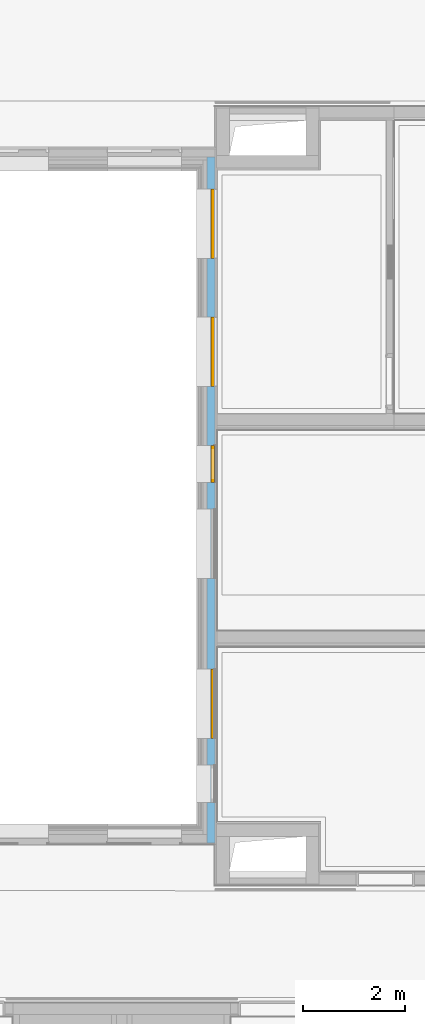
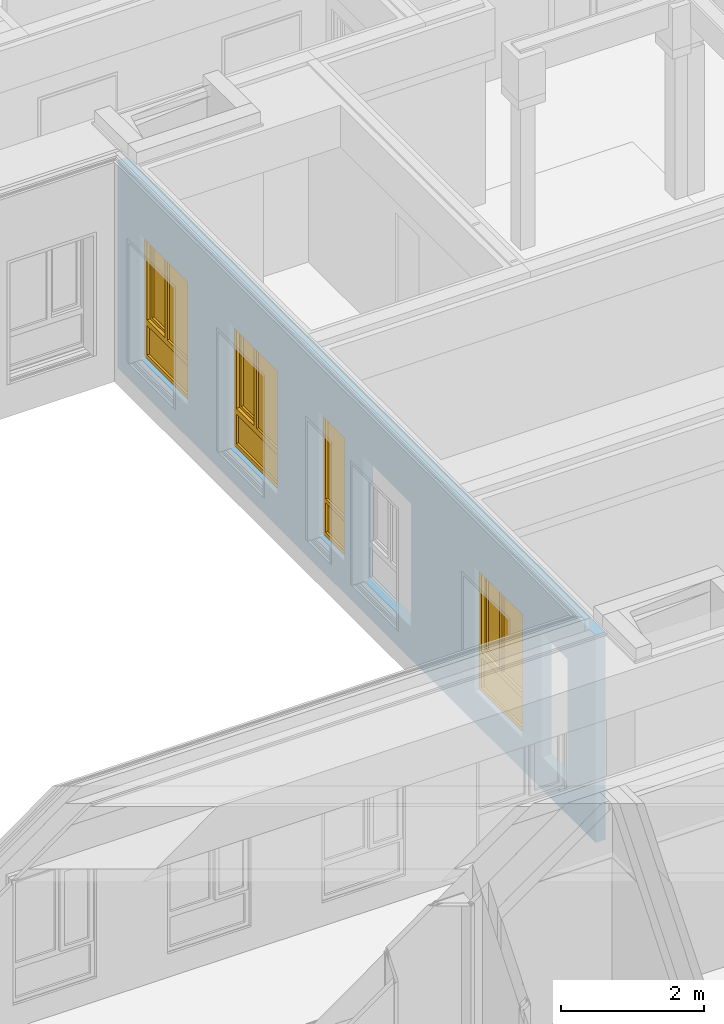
# One storey, part 74 of 222: 4 windows, 6 openings, plus 1 element that does not belong to this part.
"""IFC4 building model written with IfcOpenShell, lengths in metres."""

import ifcopenshell
import ifcopenshell.guid

model = None  # the IFC model being written
_history = None  # IfcOwnerHistory: only IFC2X3 demands one
_inside = {}  # id of a spatial element -> (the spatial element, [elements in it])
_under = {}  # id of a project, library or spatial element -> (it, [spatial elements below it])
_declared = {}  # id of a project -> (the project, [libraries it declares])
_typed = {}  # id of a type object -> (the type object, [elements of that type])
_made_of = {}  # id of a material, layer set ... -> (it, [elements and type objects made of it])


def new_model(schema):
    """Start an empty IFC model of exactly this schema.

    Asked for "IFC4X3", IfcOpenShell would pick the latest addendum, in which some entities
    have other attributes; the version numbers below select the first issue.
    IFC2X3 requires an IfcOwnerHistory on every rooted entity: one is made here for all.
    """
    global model, _history
    if schema == "IFC4X3":
        model = ifcopenshell.file(schema_version=(4, 3, 0, 0))
    else:
        model = ifcopenshell.file(schema=schema)
    _inside.clear()
    _under.clear()
    _declared.clear()
    _typed.clear()
    _made_of.clear()
    _history = None
    if model.schema == "IFC2X3":
        org = make("IfcOrganization", Name="unknown")
        user = make(
            "IfcPersonAndOrganization",
            ThePerson=make("IfcPerson", FamilyName="unknown"),
            TheOrganization=org,
        )
        app = make(
            "IfcApplication",
            ApplicationDeveloper=org,
            Version="unknown",
            ApplicationFullName="unknown",
            ApplicationIdentifier="unknown",
        )
        _history = make(
            "IfcOwnerHistory",
            OwningUser=user,
            OwningApplication=app,
            ChangeAction="ADDED",
            CreationDate=0,
        )
    return model


def make(cls, **values):
    """One entity of the class cls with the attributes given. An attribute that is None is left unset."""
    return model.create_entity(
        cls, **{name: value for name, value in values.items() if value is not None}
    )


def entity(cls, *values):
    """Any entity or typed value of the class cls, its attributes in the order of the schema. None: left unset."""
    e = model.create_entity(cls)
    for i, value in enumerate(values):
        if value is not None:
            e[i] = value
    return e


def rooted(cls, **values):
    """An entity with a GlobalId (a new one), such as an element, a storey or a relation."""
    return make(cls, GlobalId=ifcopenshell.guid.new(), OwnerHistory=_history, **values)


def si_unit(unit_type, name, prefix=None):
    """IfcSIUnit, for example si_unit("LENGTHUNIT", "METRE", prefix="MILLI")."""
    return make("IfcSIUnit", UnitType=unit_type, Prefix=prefix, Name=name)


def converted_unit(unit_type, name, factor, base, dimensions=None, offset=None):
    """IfcConversionBasedUnit, such as the inch: factor (a typed value) times the base unit."""
    return make(
        "IfcConversionBasedUnit"
        if offset is None
        else "IfcConversionBasedUnitWithOffset",
        ConversionOffset=offset,
        Dimensions=None
        if dimensions is None
        else entity("IfcDimensionalExponents", *dimensions),
        UnitType=unit_type,
        Name=name,
        ConversionFactor=make(
            "IfcMeasureWithUnit", ValueComponent=factor, UnitComponent=base
        ),
    )


def derived_unit(unit_type, elements):
    """IfcDerivedUnit: a product of units, each with its exponent."""
    return make(
        "IfcDerivedUnit",
        Elements=[
            make("IfcDerivedUnitElement", Unit=unit, Exponent=power)
            for unit, power in elements
        ],
        UnitType=unit_type,
    )


def assignment(units):
    """IfcUnitAssignment: the units of a project."""
    return None if units is None else make("IfcUnitAssignment", Units=units)


def point(xyz):
    """IfcCartesianPoint."""
    return None if xyz is None else make("IfcCartesianPoint", Coordinates=xyz)


def direction(xyz):
    """IfcDirection."""
    return None if xyz is None else make("IfcDirection", DirectionRatios=xyz)


def frame(location, z_axis=None, x_axis=None):
    """IfcAxis2Placement3D, a coordinate frame: its origin and axes. An axis left out is left unset."""
    return make(
        "IfcAxis2Placement3D",
        Location=point(location),
        Axis=direction(z_axis),
        RefDirection=direction(x_axis),
    )


def frame_2d(location, x_axis=None):
    """IfcAxis2Placement2D, a coordinate frame in the plane: its origin and x axis."""
    return make(
        "IfcAxis2Placement2D", Location=point(location), RefDirection=direction(x_axis)
    )


def origin():
    """The frame at (0, 0, 0) with its axes left unset."""
    return frame((0.0, 0.0, 0.0))


def origin_with_axes():
    """The frame at (0, 0, 0) with the z axis (0, 0, 1) and the x axis (1, 0, 0) written out."""
    return frame((0.0, 0.0, 0.0), z_axis=(0.0, 0.0, 1.0), x_axis=(1.0, 0.0, 0.0))


def place(relative_to, where):
    """IfcLocalPlacement: puts the frame where relative to a parent placement (None: the world)."""
    return make(
        "IfcLocalPlacement", PlacementRelTo=relative_to, RelativePlacement=where
    )


def context(
    kind, dimensions, precision=None, world=None, true_north=None, identifier=None
):
    """IfcGeometricRepresentationContext, for example the 3D "Model" context."""
    return make(
        "IfcGeometricRepresentationContext",
        ContextIdentifier=identifier,
        ContextType=kind,
        CoordinateSpaceDimension=dimensions,
        Precision=precision,
        WorldCoordinateSystem=world,
        TrueNorth=true_north,
    )


def subcontext(parent, identifier, kind, view, scale=None):
    """IfcGeometricRepresentationSubContext, for example "Body" below "Model"."""
    return make(
        "IfcGeometricRepresentationSubContext",
        ContextIdentifier=identifier,
        ContextType=kind,
        ParentContext=parent,
        TargetScale=scale,
        TargetView=view,
    )


def project(units=None, contexts=None):
    """IfcProject with its units and contexts."""
    return rooted(
        "IfcProject",
        Name="project",
        RepresentationContexts=contexts,
        UnitsInContext=assignment(units),
    )


def spatial(cls, under=None, at=None, **own):
    """A site, building, storey or space (cls), placed at a placement, below another one or the project."""
    s = rooted(cls, ObjectPlacement=at, **own)
    if under is not None:
        _under.setdefault(under.id(), (under, []))[1].append(s)
    return s


def polyline(points):
    """IfcPolyline through the points."""
    return make("IfcPolyline", Points=[point(p) for p in points])


def profile(cls, at=None, kind="AREA", **sizes):
    """A parametric profile (cls). Its sizes go by their IFC names, for example OverallWidth=200.0."""
    return make(cls, ProfileType=kind, Position=at, **sizes)


def rectangle(**sizes):
    """IfcRectangleProfileDef."""
    return profile("IfcRectangleProfileDef", **sizes)


def outline(outer, holes=None, kind="AREA"):
    """IfcArbitraryClosedProfileDef: a profile drawn as a closed curve; with holes, ...WithVoids."""
    if holes is None:
        return make("IfcArbitraryClosedProfileDef", ProfileType=kind, OuterCurve=outer)
    return make(
        "IfcArbitraryProfileDefWithVoids",
        ProfileType=kind,
        OuterCurve=outer,
        InnerCurves=holes,
    )


def extrude(swept, where, along, depth):
    """IfcExtrudedAreaSolid: the profile swept, set in the frame where, extruded along a direction by depth."""
    return make(
        "IfcExtrudedAreaSolid",
        SweptArea=swept,
        Position=where,
        ExtrudedDirection=direction(along),
        Depth=depth,
    )


def faces_of(points, faces, orient=None, outer=None):
    """IfcFace entities. A face is a list of loops; a loop is a list of indices into points, from 0.

    orient and outer hold one flag for each loop. By default every Orientation is true, the
    first loop of a face is its IfcFaceOuterBound and the others are IfcFaceBound.
    """
    made = []
    for i, loops in enumerate(faces):
        bounds = []
        for j, loop in enumerate(loops):
            is_outer = j == 0 if outer is None else outer[i][j]
            bounds.append(
                make(
                    "IfcFaceOuterBound" if is_outer else "IfcFaceBound",
                    Bound=make("IfcPolyLoop", Polygon=[points[k] for k in loop]),
                    Orientation=True if orient is None else orient[i][j],
                )
            )
        made.append(make("IfcFace", Bounds=bounds))
    return made


def closed_shell(faces, orient=None, outer=None):
    """The faces of one IfcClosedShell. faceted_brep and surface_model build it on their shared points."""
    return ("IfcClosedShell", faces, orient, outer)


def open_shell(faces, orient=None, outer=None):
    """The faces of one IfcOpenShell. surface_model builds it on its shared points."""
    return ("IfcOpenShell", faces, orient, outer)


def surface_model(cls, points, shells):
    """IfcFaceBasedSurfaceModel or IfcShellBasedSurfaceModel (cls): surfaces that need not close."""
    shared = [point(p) for p in points]
    made = [make(c, CfsFaces=faces_of(shared, fs, o, b)) for c, fs, o, b in shells]
    if cls == "IfcFaceBasedSurfaceModel":
        return make(cls, FbsmFaces=made)
    return make(cls, SbsmBoundary=made)


def shape(context_of_items, identifier, shape_type, items):
    """IfcShapeRepresentation: the items that make up one representation, for example the "Body"."""
    return make(
        "IfcShapeRepresentation",
        ContextOfItems=context_of_items,
        RepresentationIdentifier=identifier,
        RepresentationType=shape_type,
        Items=items,
    )


def source(mapping_origin, context_of_items, identifier, shape_type, items):
    """IfcRepresentationMap: a shape defined once, which mapped items show again and again."""
    return make(
        "IfcRepresentationMap",
        MappingOrigin=mapping_origin,
        MappedRepresentation=shape(context_of_items, identifier, shape_type, items),
    )


def transform(
    local_origin,
    x_axis=None,
    y_axis=None,
    z_axis=None,
    scale=None,
    scale2=None,
    scale3=None,
    uniform=True,
):
    """IfcCartesianTransformationOperator3D, or its non-uniform kind. x_axis, y_axis, z_axis: its Axis1, 2, 3."""
    if uniform:
        return make(
            "IfcCartesianTransformationOperator3D",
            Axis1=direction(x_axis),
            Axis2=direction(y_axis),
            LocalOrigin=point(local_origin),
            Scale=scale,
            Axis3=direction(z_axis),
        )
    return make(
        "IfcCartesianTransformationOperator3DnonUniform",
        Axis1=direction(x_axis),
        Axis2=direction(y_axis),
        LocalOrigin=point(local_origin),
        Scale=scale,
        Axis3=direction(z_axis),
        Scale2=scale2,
        Scale3=scale3,
    )


def mapped(mapping_source, mapping_target):
    """IfcMappedItem: shows the shape of a source again, moved by a transform."""
    return make(
        "IfcMappedItem", MappingSource=mapping_source, MappingTarget=mapping_target
    )


def material(Name=None, Category=None):
    """IfcMaterial."""
    return make("IfcMaterial", Name=Name, Category=Category)


def made_of(thing, what):
    """Note that an element or type object is made of a material, layer set ...; save() writes the relation."""
    if what is not None:
        _made_of.setdefault(what.id(), (what, []))[1].append(thing)
    return thing


def element(
    cls,
    number,
    at=None,
    inside=None,
    cuts=None,
    type_object=None,
    material=None,
    context=None,
    identifier="Body",
    shape_type=None,
    held_by="IfcProductDefinitionShape",
    body=None,
    shapes=None,
    **own,
):
    """One element of the class cls, such as IfcWall. Its Tag is "e" and its number.

    at: its placement. inside: the storey or other place that contains it. cuts: it is an
    opening in that element (IfcRelVoidsElement). A single representation is given by context,
    identifier, shape_type and body (its items); several are given by shapes. held_by: the class
    of the entity that holds the representations. save() writes the other relations.
    """
    e = rooted(cls, Tag="e%d" % number, ObjectPlacement=at, **own)
    if body is not None:
        shapes = [shape(context, identifier, shape_type, body)]
    if shapes is not None:
        e.Representation = make(held_by, Representations=shapes)
    if inside is not None:
        _inside.setdefault(inside.id(), (inside, []))[1].append(e)
    if cuts is not None:
        rooted(
            "IfcRelVoidsElement", RelatingBuildingElement=cuts, RelatedOpeningElement=e
        )
    if type_object is not None:
        _typed.setdefault(type_object.id(), (type_object, []))[1].append(e)
    return made_of(e, material)


def fill(opening, filler):
    """IfcRelFillsElement: the door or window that sits in an opening."""
    return rooted(
        "IfcRelFillsElement",
        RelatingOpeningElement=opening,
        RelatedBuildingElement=filler,
    )


def aggregate(whole, parts):
    """IfcRelAggregates: a whole, such as a stair, and the parts it consists of."""
    return rooted("IfcRelAggregates", RelatingObject=whole, RelatedObjects=parts)


def save(model, path):
    """Write the relations noted so far, then the file.

    IfcRelAggregates (storeys below a building ...), IfcRelContainedInSpatialStructure (elements
    in a storey), IfcRelDefinesByType, IfcRelAssociatesMaterial and IfcRelDeclares: one each for
    every whole, place, type object, material and project.
    """
    for whole, parts in _under.values():
        aggregate(whole, parts)
    for where, things in _inside.values():
        rooted(
            "IfcRelContainedInSpatialStructure",
            RelatedElements=things,
            RelatingStructure=where,
        )
    for kind, things in _typed.values():
        rooted("IfcRelDefinesByType", RelatedObjects=things, RelatingType=kind)
    for what, things in _made_of.values():
        rooted("IfcRelAssociatesMaterial", RelatedObjects=things, RelatingMaterial=what)
    for by, libraries in _declared.values():
        rooted("IfcRelDeclares", RelatingContext=by, RelatedDefinitions=libraries)
    model.write(path)


model = new_model("IFC4")

# Units and contexts
model_context = context("Model", 3, precision=1e-05, world=origin())
body_context = subcontext(model_context, "Body", "Model", "MODEL_VIEW")
ifc_project = project(units=[si_unit("LENGTHUNIT", "METRE"), si_unit("AREAUNIT", "SQUARE_METRE"), si_unit("VOLUMEUNIT", "CUBIC_METRE"), si_unit("MASSUNIT", "GRAM", prefix="KILO"), converted_unit("PLANEANGLEUNIT", "DEGREE", entity("IfcPlaneAngleMeasure", 0.0174532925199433), si_unit("PLANEANGLEUNIT", "RADIAN"), dimensions=[0, 0, 0, 0, 0, 0, 0]), derived_unit("THERMALTRANSMITTANCEUNIT", [(si_unit("POWERUNIT", "WATT"), 1), (si_unit("THERMODYNAMICTEMPERATUREUNIT", "KELVIN"), -1), (si_unit("LENGTHUNIT", "METRE"), -2)]), derived_unit("VOLUMETRICFLOWRATEUNIT", [(si_unit("LENGTHUNIT", "METRE"), 3), (converted_unit("TIMEUNIT", "hour", entity("IfcTimeMeasure", 3600.0), si_unit("TIMEUNIT", "SECOND"), dimensions=[0, 0, 1, 0, 0, 0, 0]), -1), (si_unit("LENGTHUNIT", "METRE"), -1)])], contexts=[model_context])

# Site, building, storey
site_placement = place(None, origin())
site = spatial("IfcSite", under=ifc_project, at=site_placement, Name="Psychiatrie Neubau Wunstorf", CompositionType="ELEMENT")
building_placement = place(site_placement, origin())
building = spatial("IfcBuilding", under=site, at=building_placement, Name="Neubau H2 Stationsgebäude", CompositionType="ELEMENT")
storey_placement = place(building_placement, frame((0.0, 0.0, 3.6)))
storey = spatial("IfcBuildingStorey", under=building, at=storey_placement, Name="H2 Ebene +1", CompositionType="ELEMENT", Elevation=3.6)

# Wall, openings, windows
ifc_material = material(Name="WA-DL")
wall_placement = place(storey_placement, frame((26.825, 7.45, 0.0), z_axis=(0.0, 0.0, 1.0), x_axis=(5.43320358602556e-16, 1.0, 0.0)))
wall = element("IfcWall", 1, at=wall_placement, inside=storey, material=ifc_material, context=body_context, shape_type="SweptSolid", body=[
    extrude(rectangle(XDim=13.3916528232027, YDim=0.16, at=frame_2d((6.69582641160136, 0.08), x_axis=(1.0, 0.0))), origin_with_axes(), (0.0, 0.0, 1.0), 3.55),
])
opening_1_placement = place(wall_placement, frame((12.765, 0.16, 0.55), z_axis=(0.0, -1.0, 0.0), x_axis=(0.0, 0.0, 1.0)))
opening_1 = element("IfcOpeningElement", 2, at=opening_1_placement, cuts=wall, Name="Fensteröffnung", ObjectType="Opening", context=body_context, shape_type="SweptSolid", body=[
    extrude(outline(polyline([(2.115, 1.35), (2.115, 0.0), (0.0, 0.0), (0.0, 1.35), (2.115, 1.35)])), origin_with_axes(), (0.0, 0.0, 1.0), 0.16),
])
opening_2_placement = place(wall_placement, frame((10.2654401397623, 0.159999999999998, 0.55), z_axis=(0.0, -1.0, 0.0), x_axis=(0.0, 0.0, 1.0)))
opening_2 = element("IfcOpeningElement", 3, at=opening_2_placement, cuts=wall, Name="Fensteröffnung", ObjectType="Opening", context=body_context, shape_type="SweptSolid", body=[
    extrude(outline(polyline([(2.115, 1.35), (2.115, 0.0), (0.0, 0.0), (0.0, 1.35), (2.115, 1.35)])), origin_with_axes(), (0.0, 0.0, 1.0), 0.16),
])
opening_3_placement = place(wall_placement, frame((7.76505754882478, 0.160000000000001, 0.55), z_axis=(0.0, -1.0, 0.0), x_axis=(0.0, 0.0, 1.0)))
opening_3 = element("IfcOpeningElement", 4, at=opening_3_placement, cuts=wall, Name="Fensteröffnung", ObjectType="Opening", context=body_context, shape_type="SweptSolid", body=[
    extrude(outline(polyline([(2.115, 0.725), (2.115, 0.0), (0.0, 0.0), (0.0, 0.725), (2.115, 0.725)])), origin_with_axes(), (0.0, 0.0, 1.0), 0.16),
])
opening_4_placement = place(wall_placement, frame((3.39244477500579, 0.160000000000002, 0.55), z_axis=(0.0, -1.0, 0.0), x_axis=(0.0, 0.0, 1.0)))
opening_4 = element("IfcOpeningElement", 5, at=opening_4_placement, cuts=wall, Name="Fensteröffnung", ObjectType="Opening", context=body_context, shape_type="SweptSolid", body=[
    extrude(outline(polyline([(2.115, 1.35), (2.115, 0.0), (0.0, 0.0), (0.0, 1.35), (2.115, 1.35)])), origin_with_axes(), (0.0, 0.0, 1.0), 0.16),
])
opening_5_placement = place(wall_placement, frame((1.51744478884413, 0.159999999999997, 0.55), z_axis=(0.0, -1.0, 0.0), x_axis=(0.0, 0.0, 1.0)))
element("IfcOpeningElement", 6, at=opening_5_placement, cuts=wall, Name="Fensteröffnung", ObjectType="Opening", context=body_context, shape_type="SweptSolid", body=[
    extrude(outline(polyline([(2.115, 0.725), (2.115, 0.0), (0.0, 0.0), (0.0, 0.725), (2.115, 0.725)])), origin_with_axes(), (0.0, 0.0, 1.0), 0.16),
])
opening_6_placement = place(wall_placement, frame((6.51580066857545, 0.160000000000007, 0.55), z_axis=(0.0, -1.0, 0.0), x_axis=(0.0, 0.0, 1.0)))
element("IfcOpeningElement", 7, at=opening_6_placement, cuts=wall, Name="Fensteröffnung", ObjectType="Opening", context=body_context, shape_type="SweptSolid", body=[
    extrude(outline(polyline([(2.115, 1.35), (2.115, 0.0), (0.0, 0.0), (0.0, 1.35), (2.115, 1.35)])), origin_with_axes(), (0.0, 0.0, 1.0), 0.16),
])
shared_shape_1 = source(origin_with_axes(), body_context, "Body", "SurfaceModel", [
    surface_model("IfcShellBasedSurfaceModel", [(1.34999999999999, 0.0, 2.115), (1.34999999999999, 0.0, 0.0), (1.27999999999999, 0.0, 0.0), (1.27999999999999, 0.0, 2.115), (1.34999999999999, 0.0700000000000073, 0.0), (1.34999999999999, 0.0700000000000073, 2.115), (1.27999999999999, 0.0700000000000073, 2.115), (1.27999999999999, 0.0700000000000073, 0.0)], [closed_shell([[[0, 1, 2, 3]], [[4, 5, 6, 7]], [[1, 0, 5, 4]], [[2, 1, 4, 7]], [[3, 2, 7, 6]], [[0, 3, 6, 5]]], orient=[[False], [False], [False], [False], [False], [False]])]),
    surface_model("IfcShellBasedSurfaceModel", [(0.0699999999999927, 0.0, 2.115), (0.0699999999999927, 0.0, 0.0), (0.0, 0.0, 0.0), (0.0, 0.0, 2.115), (0.0699999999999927, 0.0700000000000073, 0.0), (0.0699999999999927, 0.0700000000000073, 2.115), (0.0, 0.0700000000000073, 2.115), (0.0, 0.0700000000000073, 0.0)], [closed_shell([[[0, 1, 2, 3]], [[4, 5, 6, 7]], [[1, 0, 5, 4]], [[2, 1, 4, 7]], [[3, 2, 7, 6]], [[0, 3, 6, 5]]], orient=[[False], [False], [False], [False], [False], [False]])]),
    surface_model("IfcShellBasedSurfaceModel", [(1.27999999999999, 0.0, 0.07), (1.27999999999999, 0.0, 0.0), (0.0699999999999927, 0.0, 0.0), (0.0699999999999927, 0.0, 0.07), (1.27999999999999, 0.0700000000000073, 0.0), (1.27999999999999, 0.0700000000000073, 0.07), (0.0699999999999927, 0.0700000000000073, 0.07), (0.0699999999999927, 0.0700000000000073, 0.0)], [closed_shell([[[0, 1, 2, 3]], [[4, 5, 6, 7]], [[1, 0, 5, 4]], [[2, 1, 4, 7]], [[3, 2, 7, 6]], [[0, 3, 6, 5]]], orient=[[False], [False], [False], [False], [False], [False]])]),
    surface_model("IfcShellBasedSurfaceModel", [(1.27999999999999, 0.0, 2.115), (1.27999999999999, 0.0, 2.045), (0.0699999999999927, 0.0, 2.045), (0.0699999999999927, 0.0, 2.115), (1.27999999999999, 0.0700000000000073, 2.045), (1.27999999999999, 0.0700000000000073, 2.115), (0.0699999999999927, 0.0700000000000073, 2.115), (0.0699999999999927, 0.0700000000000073, 2.045)], [closed_shell([[[0, 1, 2, 3]], [[4, 5, 6, 7]], [[1, 0, 5, 4]], [[2, 1, 4, 7]], [[3, 2, 7, 6]], [[0, 3, 6, 5]]], orient=[[False], [False], [False], [False], [False], [False]])]),
    surface_model("IfcShellBasedSurfaceModel", [(1.27999999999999, 0.0, 0.67), (1.27999999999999, 0.0, 0.57), (0.0699999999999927, 0.0, 0.57), (0.0699999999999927, 0.0, 0.67), (1.27999999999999, 0.0700000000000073, 0.57), (1.27999999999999, 0.0700000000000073, 0.67), (0.0699999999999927, 0.0700000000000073, 0.67), (0.0699999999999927, 0.0700000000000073, 0.57)], [closed_shell([[[0, 1, 2, 3]], [[4, 5, 6, 7]], [[1, 0, 5, 4]], [[2, 1, 4, 7]], [[3, 2, 7, 6]], [[0, 3, 6, 5]]], orient=[[False], [False], [False], [False], [False], [False]])]),
    surface_model("IfcShellBasedSurfaceModel", [(1.27999999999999, 0.0350000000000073, 0.07), (0.0699999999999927, 0.0350000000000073, 0.07), (0.0699999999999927, 0.0350000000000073, 0.57), (1.27999999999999, 0.0350000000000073, 0.57)], [open_shell([[[0, 1, 2, 3]]], orient=[[False]])]),
    surface_model("IfcShellBasedSurfaceModel", [(0.784299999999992, 0.0, 2.045), (0.784299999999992, 0.0, 0.67), (0.714299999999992, 0.0, 0.67), (0.714299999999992, 0.0, 2.045), (0.784299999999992, 0.0700000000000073, 0.67), (0.784299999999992, 0.0700000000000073, 2.045), (0.714299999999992, 0.0700000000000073, 2.045), (0.714299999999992, 0.0700000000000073, 0.67)], [closed_shell([[[0, 1, 2, 3]], [[4, 5, 6, 7]], [[1, 0, 5, 4]], [[2, 1, 4, 7]], [[3, 2, 7, 6]], [[0, 3, 6, 5]]], orient=[[False], [False], [False], [False], [False], [False]])]),
    surface_model("IfcShellBasedSurfaceModel", [(1.29999999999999, -0.0499999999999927, 2.065), (1.29999999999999, -0.0499999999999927, 0.65), (1.22999999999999, -0.0499999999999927, 0.65), (1.22999999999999, -0.0499999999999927, 2.065), (1.29999999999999, 0.0200000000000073, 0.65), (1.29999999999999, 0.0200000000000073, 2.065), (1.22999999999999, 0.0200000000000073, 2.065), (1.22999999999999, 0.0200000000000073, 0.65)], [closed_shell([[[0, 1, 2, 3]], [[4, 5, 6, 7]], [[1, 0, 5, 4]], [[2, 1, 4, 7]], [[3, 2, 7, 6]], [[0, 3, 6, 5]]], orient=[[False], [False], [False], [False], [False], [False]])]),
    surface_model("IfcShellBasedSurfaceModel", [(0.834299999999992, -0.0499999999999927, 2.065), (0.834299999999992, -0.0499999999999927, 0.65), (0.764299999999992, -0.0499999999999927, 0.65), (0.764299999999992, -0.0499999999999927, 2.065), (0.834299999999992, 0.0200000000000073, 0.65), (0.834299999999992, 0.0200000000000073, 2.065), (0.764299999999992, 0.0200000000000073, 2.065), (0.764299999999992, 0.0200000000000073, 0.65)], [closed_shell([[[0, 1, 2, 3]], [[4, 5, 6, 7]], [[1, 0, 5, 4]], [[2, 1, 4, 7]], [[3, 2, 7, 6]], [[0, 3, 6, 5]]], orient=[[False], [False], [False], [False], [False], [False]])]),
    surface_model("IfcShellBasedSurfaceModel", [(1.22999999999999, -0.0499999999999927, 0.72), (1.22999999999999, -0.0499999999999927, 0.65), (0.834299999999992, -0.0499999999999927, 0.65), (0.834299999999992, -0.0499999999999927, 0.72), (1.22999999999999, 0.0200000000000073, 0.65), (1.22999999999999, 0.0200000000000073, 0.72), (0.834299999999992, 0.0200000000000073, 0.72), (0.834299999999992, 0.0200000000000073, 0.65)], [closed_shell([[[0, 1, 2, 3]], [[4, 5, 6, 7]], [[1, 0, 5, 4]], [[2, 1, 4, 7]], [[3, 2, 7, 6]], [[0, 3, 6, 5]]], orient=[[False], [False], [False], [False], [False], [False]])]),
    surface_model("IfcShellBasedSurfaceModel", [(1.22999999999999, -0.0499999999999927, 2.065), (1.22999999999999, -0.0499999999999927, 1.995), (0.834299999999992, -0.0499999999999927, 1.995), (0.834299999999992, -0.0499999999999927, 2.065), (1.22999999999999, 0.0200000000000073, 1.995), (1.22999999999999, 0.0200000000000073, 2.065), (0.834299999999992, 0.0200000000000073, 2.065), (0.834299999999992, 0.0200000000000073, 1.995)], [closed_shell([[[0, 1, 2, 3]], [[4, 5, 6, 7]], [[1, 0, 5, 4]], [[2, 1, 4, 7]], [[3, 2, 7, 6]], [[0, 3, 6, 5]]], orient=[[False], [False], [False], [False], [False], [False]])]),
    surface_model("IfcShellBasedSurfaceModel", [(0.714299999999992, 0.0350000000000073, 0.67), (0.0699999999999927, 0.0350000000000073, 0.67), (0.0699999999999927, 0.0350000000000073, 2.045), (0.714299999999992, 0.0350000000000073, 2.045)], [open_shell([[[0, 1, 2, 3]]], orient=[[False]])]),
    surface_model("IfcShellBasedSurfaceModel", [(1.22999999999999, -0.0149999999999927, 0.72), (0.834299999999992, -0.0149999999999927, 0.72), (0.834299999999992, -0.0149999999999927, 1.995), (1.22999999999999, -0.0149999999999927, 1.995)], [open_shell([[[0, 1, 2, 3]]], orient=[[False]])]),
])
window_1_placement = place(opening_1_placement, frame((0.0, 1.35, 0.146), z_axis=(1.0, 0.0, 0.0), x_axis=(0.0, -1.0, -5.43320358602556e-16)))
window_1 = element("IfcWindow", 8, at=window_1_placement, inside=storey, Name="Fenster", OverallHeight=2.115, OverallWidth=1.35, PartitioningType="USERDEFINED", PredefinedType="WINDOW", context=body_context, shape_type="MappedRepresentation", body=[
    mapped(shared_shape_1, transform((0.0, 0.0, 0.0), x_axis=(1.0, 0.0, 0.0), y_axis=(0.0, 1.0, 0.0), z_axis=(0.0, 0.0, 1.0), scale=1.0)),
])
fill(opening_1, window_1)
shared_shape_2 = source(origin_with_axes(), body_context, "Body", "SurfaceModel", [
    surface_model("IfcShellBasedSurfaceModel", [(1.34999999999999, 0.0, 2.115), (1.34999999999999, 0.0, 0.0), (1.27999999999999, 0.0, 0.0), (1.27999999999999, 0.0, 2.115), (1.34999999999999, 0.0700000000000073, 0.0), (1.34999999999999, 0.0700000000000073, 2.115), (1.27999999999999, 0.0700000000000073, 2.115), (1.27999999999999, 0.0700000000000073, 0.0)], [closed_shell([[[0, 1, 2, 3]], [[4, 5, 6, 7]], [[1, 0, 5, 4]], [[2, 1, 4, 7]], [[3, 2, 7, 6]], [[0, 3, 6, 5]]], orient=[[False], [False], [False], [False], [False], [False]])]),
    surface_model("IfcShellBasedSurfaceModel", [(0.0699999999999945, 0.0, 2.115), (0.0699999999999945, 0.0, 0.0), (0.0, 0.0, 0.0), (0.0, 0.0, 2.115), (0.0699999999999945, 0.0700000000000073, 0.0), (0.0699999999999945, 0.0700000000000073, 2.115), (0.0, 0.0700000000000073, 2.115), (0.0, 0.0700000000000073, 0.0)], [closed_shell([[[0, 1, 2, 3]], [[4, 5, 6, 7]], [[1, 0, 5, 4]], [[2, 1, 4, 7]], [[3, 2, 7, 6]], [[0, 3, 6, 5]]], orient=[[False], [False], [False], [False], [False], [False]])]),
    surface_model("IfcShellBasedSurfaceModel", [(1.27999999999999, 0.0, 0.07), (1.27999999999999, 0.0, 0.0), (0.0699999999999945, 0.0, 0.0), (0.0699999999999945, 0.0, 0.07), (1.27999999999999, 0.0700000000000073, 0.0), (1.27999999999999, 0.0700000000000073, 0.07), (0.0699999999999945, 0.0700000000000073, 0.07), (0.0699999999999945, 0.0700000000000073, 0.0)], [closed_shell([[[0, 1, 2, 3]], [[4, 5, 6, 7]], [[1, 0, 5, 4]], [[2, 1, 4, 7]], [[3, 2, 7, 6]], [[0, 3, 6, 5]]], orient=[[False], [False], [False], [False], [False], [False]])]),
    surface_model("IfcShellBasedSurfaceModel", [(1.27999999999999, 0.0, 2.115), (1.27999999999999, 0.0, 2.045), (0.0699999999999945, 0.0, 2.045), (0.0699999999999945, 0.0, 2.115), (1.27999999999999, 0.0700000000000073, 2.045), (1.27999999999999, 0.0700000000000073, 2.115), (0.0699999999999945, 0.0700000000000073, 2.115), (0.0699999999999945, 0.0700000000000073, 2.045)], [closed_shell([[[0, 1, 2, 3]], [[4, 5, 6, 7]], [[1, 0, 5, 4]], [[2, 1, 4, 7]], [[3, 2, 7, 6]], [[0, 3, 6, 5]]], orient=[[False], [False], [False], [False], [False], [False]])]),
    surface_model("IfcShellBasedSurfaceModel", [(1.27999999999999, 0.0, 0.67), (1.27999999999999, 0.0, 0.57), (0.0699999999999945, 0.0, 0.57), (0.0699999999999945, 0.0, 0.67), (1.27999999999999, 0.0700000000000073, 0.57), (1.27999999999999, 0.0700000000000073, 0.67), (0.0699999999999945, 0.0700000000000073, 0.67), (0.0699999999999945, 0.0700000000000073, 0.57)], [closed_shell([[[0, 1, 2, 3]], [[4, 5, 6, 7]], [[1, 0, 5, 4]], [[2, 1, 4, 7]], [[3, 2, 7, 6]], [[0, 3, 6, 5]]], orient=[[False], [False], [False], [False], [False], [False]])]),
    surface_model("IfcShellBasedSurfaceModel", [(1.27999999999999, 0.0350000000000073, 0.07), (0.0699999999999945, 0.0350000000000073, 0.07), (0.0699999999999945, 0.0350000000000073, 0.57), (1.27999999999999, 0.0350000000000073, 0.57)], [open_shell([[[0, 1, 2, 3]]], orient=[[False]])]),
    surface_model("IfcShellBasedSurfaceModel", [(0.784299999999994, 0.0, 2.045), (0.784299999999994, 0.0, 0.67), (0.714299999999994, 0.0, 0.67), (0.714299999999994, 0.0, 2.045), (0.784299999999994, 0.0700000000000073, 0.67), (0.784299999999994, 0.0700000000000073, 2.045), (0.714299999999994, 0.0700000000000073, 2.045), (0.714299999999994, 0.0700000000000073, 0.67)], [closed_shell([[[0, 1, 2, 3]], [[4, 5, 6, 7]], [[1, 0, 5, 4]], [[2, 1, 4, 7]], [[3, 2, 7, 6]], [[0, 3, 6, 5]]], orient=[[False], [False], [False], [False], [False], [False]])]),
    surface_model("IfcShellBasedSurfaceModel", [(1.29999999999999, -0.0499999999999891, 2.065), (1.29999999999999, -0.0499999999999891, 0.65), (1.22999999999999, -0.0499999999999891, 0.65), (1.22999999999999, -0.0499999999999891, 2.065), (1.29999999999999, 0.0200000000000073, 0.65), (1.29999999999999, 0.0200000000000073, 2.065), (1.22999999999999, 0.0200000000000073, 2.065), (1.22999999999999, 0.0200000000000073, 0.65)], [closed_shell([[[0, 1, 2, 3]], [[4, 5, 6, 7]], [[1, 0, 5, 4]], [[2, 1, 4, 7]], [[3, 2, 7, 6]], [[0, 3, 6, 5]]], orient=[[False], [False], [False], [False], [False], [False]])]),
    surface_model("IfcShellBasedSurfaceModel", [(0.834299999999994, -0.0499999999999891, 2.065), (0.834299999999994, -0.0499999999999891, 0.65), (0.764299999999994, -0.0499999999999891, 0.65), (0.764299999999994, -0.0499999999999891, 2.065), (0.834299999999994, 0.0200000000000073, 0.65), (0.834299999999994, 0.0200000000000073, 2.065), (0.764299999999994, 0.0200000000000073, 2.065), (0.764299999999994, 0.0200000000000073, 0.65)], [closed_shell([[[0, 1, 2, 3]], [[4, 5, 6, 7]], [[1, 0, 5, 4]], [[2, 1, 4, 7]], [[3, 2, 7, 6]], [[0, 3, 6, 5]]], orient=[[False], [False], [False], [False], [False], [False]])]),
    surface_model("IfcShellBasedSurfaceModel", [(1.22999999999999, -0.0499999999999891, 0.72), (1.22999999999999, -0.0499999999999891, 0.65), (0.834299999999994, -0.0499999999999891, 0.65), (0.834299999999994, -0.0499999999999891, 0.72), (1.22999999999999, 0.0200000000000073, 0.65), (1.22999999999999, 0.0200000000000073, 0.72), (0.834299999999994, 0.0200000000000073, 0.72), (0.834299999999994, 0.0200000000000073, 0.65)], [closed_shell([[[0, 1, 2, 3]], [[4, 5, 6, 7]], [[1, 0, 5, 4]], [[2, 1, 4, 7]], [[3, 2, 7, 6]], [[0, 3, 6, 5]]], orient=[[False], [False], [False], [False], [False], [False]])]),
    surface_model("IfcShellBasedSurfaceModel", [(1.22999999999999, -0.0499999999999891, 2.065), (1.22999999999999, -0.0499999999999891, 1.995), (0.834299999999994, -0.0499999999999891, 1.995), (0.834299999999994, -0.0499999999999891, 2.065), (1.22999999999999, 0.0200000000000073, 1.995), (1.22999999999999, 0.0200000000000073, 2.065), (0.834299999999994, 0.0200000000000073, 2.065), (0.834299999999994, 0.0200000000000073, 1.995)], [closed_shell([[[0, 1, 2, 3]], [[4, 5, 6, 7]], [[1, 0, 5, 4]], [[2, 1, 4, 7]], [[3, 2, 7, 6]], [[0, 3, 6, 5]]], orient=[[False], [False], [False], [False], [False], [False]])]),
    surface_model("IfcShellBasedSurfaceModel", [(0.714299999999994, 0.0350000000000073, 0.67), (0.0699999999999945, 0.0350000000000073, 0.67), (0.0699999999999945, 0.0350000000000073, 2.045), (0.714299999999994, 0.0350000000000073, 2.045)], [open_shell([[[0, 1, 2, 3]]], orient=[[False]])]),
    surface_model("IfcShellBasedSurfaceModel", [(1.22999999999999, -0.0149999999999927, 0.72), (0.834299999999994, -0.0149999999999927, 0.72), (0.834299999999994, -0.0149999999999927, 1.995), (1.22999999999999, -0.0149999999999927, 1.995)], [open_shell([[[0, 1, 2, 3]]], orient=[[False]])]),
])
window_2_placement = place(opening_2_placement, frame((0.0, 1.35, 0.146000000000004), z_axis=(1.0, 0.0, 0.0), x_axis=(0.0, -1.0, -5.43320358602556e-16)))
window_2 = element("IfcWindow", 9, at=window_2_placement, inside=storey, Name="Fenster", OverallHeight=2.115, OverallWidth=1.35, PartitioningType="USERDEFINED", PredefinedType="WINDOW", context=body_context, shape_type="MappedRepresentation", body=[
    mapped(shared_shape_2, transform((0.0, 0.0, 0.0), x_axis=(1.0, 0.0, 0.0), y_axis=(0.0, 1.0, 0.0), z_axis=(0.0, 0.0, 1.0), scale=1.0)),
])
fill(opening_2, window_2)
shared_shape_3 = source(origin_with_axes(), body_context, "Body", "SurfaceModel", [
    surface_model("IfcShellBasedSurfaceModel", [(0.725000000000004, 0.0, 2.115), (0.725000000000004, 0.0, 0.0), (0.655000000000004, 0.0, 0.0), (0.655000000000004, 0.0, 2.115), (0.725000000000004, 0.0699999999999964, 0.0), (0.725000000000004, 0.0699999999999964, 2.115), (0.655000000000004, 0.0699999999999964, 2.115), (0.655000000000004, 0.0699999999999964, 0.0)], [closed_shell([[[0, 1, 2, 3]], [[4, 5, 6, 7]], [[1, 0, 5, 4]], [[2, 1, 4, 7]], [[3, 2, 7, 6]], [[0, 3, 6, 5]]], orient=[[False], [False], [False], [False], [False], [False]])]),
    surface_model("IfcShellBasedSurfaceModel", [(0.0700000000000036, 0.0, 2.115), (0.0700000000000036, 0.0, 0.0), (0.0, 0.0, 0.0), (0.0, 0.0, 2.115), (0.0700000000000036, 0.0699999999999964, 0.0), (0.0700000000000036, 0.0699999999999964, 2.115), (0.0, 0.0699999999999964, 2.115), (0.0, 0.0699999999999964, 0.0)], [closed_shell([[[0, 1, 2, 3]], [[4, 5, 6, 7]], [[1, 0, 5, 4]], [[2, 1, 4, 7]], [[3, 2, 7, 6]], [[0, 3, 6, 5]]], orient=[[False], [False], [False], [False], [False], [False]])]),
    surface_model("IfcShellBasedSurfaceModel", [(0.655000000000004, 0.0, 0.07), (0.655000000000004, 0.0, 0.0), (0.0700000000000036, 0.0, 0.0), (0.0700000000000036, 0.0, 0.07), (0.655000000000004, 0.0699999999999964, 0.0), (0.655000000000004, 0.0699999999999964, 0.07), (0.0700000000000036, 0.0699999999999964, 0.07), (0.0700000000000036, 0.0699999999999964, 0.0)], [closed_shell([[[0, 1, 2, 3]], [[4, 5, 6, 7]], [[1, 0, 5, 4]], [[2, 1, 4, 7]], [[3, 2, 7, 6]], [[0, 3, 6, 5]]], orient=[[False], [False], [False], [False], [False], [False]])]),
    surface_model("IfcShellBasedSurfaceModel", [(0.655000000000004, 0.0, 2.115), (0.655000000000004, 0.0, 2.045), (0.0700000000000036, 0.0, 2.045), (0.0700000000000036, 0.0, 2.115), (0.655000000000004, 0.0699999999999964, 2.045), (0.655000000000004, 0.0699999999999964, 2.115), (0.0700000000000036, 0.0699999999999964, 2.115), (0.0700000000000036, 0.0699999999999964, 2.045)], [closed_shell([[[0, 1, 2, 3]], [[4, 5, 6, 7]], [[1, 0, 5, 4]], [[2, 1, 4, 7]], [[3, 2, 7, 6]], [[0, 3, 6, 5]]], orient=[[False], [False], [False], [False], [False], [False]])]),
    surface_model("IfcShellBasedSurfaceModel", [(0.655000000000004, 0.0, 0.64), (0.655000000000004, 0.0, 0.57), (0.0700000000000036, 0.0, 0.57), (0.0700000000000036, 0.0, 0.64), (0.655000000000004, 0.0699999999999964, 0.57), (0.655000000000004, 0.0699999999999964, 0.64), (0.0700000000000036, 0.0699999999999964, 0.64), (0.0700000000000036, 0.0699999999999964, 0.57)], [closed_shell([[[0, 1, 2, 3]], [[4, 5, 6, 7]], [[1, 0, 5, 4]], [[2, 1, 4, 7]], [[3, 2, 7, 6]], [[0, 3, 6, 5]]], orient=[[False], [False], [False], [False], [False], [False]])]),
    surface_model("IfcShellBasedSurfaceModel", [(0.655000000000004, 0.0349999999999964, 0.07), (0.0700000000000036, 0.0349999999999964, 0.07), (0.0700000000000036, 0.0349999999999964, 0.57), (0.655000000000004, 0.0349999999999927, 0.57)], [open_shell([[[0, 1, 2, 3]]], orient=[[False]])]),
    surface_model("IfcShellBasedSurfaceModel", [(0.655000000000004, 0.0349999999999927, 0.64), (0.0700000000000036, 0.0349999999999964, 0.64), (0.0700000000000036, 0.0349999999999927, 2.045), (0.655000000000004, 0.0349999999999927, 2.045)], [open_shell([[[0, 1, 2, 3]]], orient=[[False]])]),
])
window_3_placement = place(opening_3_placement, frame((0.0, 0.0, 0.076), z_axis=(1.0, 0.0, 0.0), x_axis=(0.0, 1.0, 5.43320358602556e-16)))
window_3 = element("IfcWindow", 10, at=window_3_placement, inside=storey, Name="Fenster", OverallHeight=2.115, OverallWidth=0.725, PartitioningType="USERDEFINED", PredefinedType="WINDOW", context=body_context, shape_type="MappedRepresentation", body=[
    mapped(shared_shape_3, transform((0.0, 0.0, 0.0), x_axis=(1.0, 0.0, 0.0), y_axis=(0.0, 1.0, 0.0), z_axis=(0.0, 0.0, 1.0), scale=1.0)),
])
fill(opening_3, window_3)
shared_shape_4 = source(origin_with_axes(), body_context, "Body", "SurfaceModel", [
    surface_model("IfcShellBasedSurfaceModel", [(1.35, 0.0, 2.115), (1.35, 0.0, 0.0), (1.28, 0.0, 0.0), (1.28, 0.0, 2.115), (1.35, 0.0700000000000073, 0.0), (1.35, 0.0700000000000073, 2.115), (1.28, 0.0700000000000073, 2.115), (1.28, 0.0700000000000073, 0.0)], [closed_shell([[[0, 1, 2, 3]], [[4, 5, 6, 7]], [[1, 0, 5, 4]], [[2, 1, 4, 7]], [[3, 2, 7, 6]], [[0, 3, 6, 5]]], orient=[[False], [False], [False], [False], [False], [False]])]),
    surface_model("IfcShellBasedSurfaceModel", [(0.0699999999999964, 0.0, 2.115), (0.0699999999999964, 0.0, 0.0), (0.0, 0.0, 0.0), (0.0, 0.0, 2.115), (0.0699999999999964, 0.0700000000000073, 0.0), (0.0699999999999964, 0.0700000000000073, 2.115), (0.0, 0.0700000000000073, 2.115), (0.0, 0.0700000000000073, 0.0)], [closed_shell([[[0, 1, 2, 3]], [[4, 5, 6, 7]], [[1, 0, 5, 4]], [[2, 1, 4, 7]], [[3, 2, 7, 6]], [[0, 3, 6, 5]]], orient=[[False], [False], [False], [False], [False], [False]])]),
    surface_model("IfcShellBasedSurfaceModel", [(1.28, 0.0, 0.07), (1.28, 0.0, 0.0), (0.0699999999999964, 0.0, 0.0), (0.0699999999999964, 0.0, 0.07), (1.28, 0.0700000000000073, 0.0), (1.28, 0.0700000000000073, 0.07), (0.0699999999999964, 0.0700000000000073, 0.07), (0.0699999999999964, 0.0700000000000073, 0.0)], [closed_shell([[[0, 1, 2, 3]], [[4, 5, 6, 7]], [[1, 0, 5, 4]], [[2, 1, 4, 7]], [[3, 2, 7, 6]], [[0, 3, 6, 5]]], orient=[[False], [False], [False], [False], [False], [False]])]),
    surface_model("IfcShellBasedSurfaceModel", [(1.28, 0.0, 2.115), (1.28, 0.0, 2.045), (0.0699999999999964, 0.0, 2.045), (0.0699999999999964, 0.0, 2.115), (1.28, 0.0700000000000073, 2.045), (1.28, 0.0700000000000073, 2.115), (0.0699999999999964, 0.0700000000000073, 2.115), (0.0699999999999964, 0.0700000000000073, 2.045)], [closed_shell([[[0, 1, 2, 3]], [[4, 5, 6, 7]], [[1, 0, 5, 4]], [[2, 1, 4, 7]], [[3, 2, 7, 6]], [[0, 3, 6, 5]]], orient=[[False], [False], [False], [False], [False], [False]])]),
    surface_model("IfcShellBasedSurfaceModel", [(1.28, 0.0, 0.67), (1.28, 0.0, 0.57), (0.0699999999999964, 0.0, 0.57), (0.0699999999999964, 0.0, 0.67), (1.28, 0.0700000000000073, 0.57), (1.28, 0.0700000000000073, 0.67), (0.0699999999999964, 0.0700000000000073, 0.67), (0.0699999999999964, 0.0700000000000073, 0.57)], [closed_shell([[[0, 1, 2, 3]], [[4, 5, 6, 7]], [[1, 0, 5, 4]], [[2, 1, 4, 7]], [[3, 2, 7, 6]], [[0, 3, 6, 5]]], orient=[[False], [False], [False], [False], [False], [False]])]),
    surface_model("IfcShellBasedSurfaceModel", [(1.28, 0.0350000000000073, 0.07), (0.0699999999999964, 0.0350000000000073, 0.07), (0.0699999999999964, 0.0350000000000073, 0.57), (1.28, 0.0350000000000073, 0.57)], [open_shell([[[0, 1, 2, 3]]], orient=[[False]])]),
    surface_model("IfcShellBasedSurfaceModel", [(0.784299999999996, 0.0, 2.045), (0.784299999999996, 0.0, 0.67), (0.714299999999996, 0.0, 0.67), (0.714299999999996, 0.0, 2.045), (0.784299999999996, 0.0700000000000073, 0.67), (0.784299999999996, 0.0700000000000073, 2.045), (0.714299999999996, 0.0700000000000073, 2.045), (0.714299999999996, 0.0700000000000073, 0.67)], [closed_shell([[[0, 1, 2, 3]], [[4, 5, 6, 7]], [[1, 0, 5, 4]], [[2, 1, 4, 7]], [[3, 2, 7, 6]], [[0, 3, 6, 5]]], orient=[[False], [False], [False], [False], [False], [False]])]),
    surface_model("IfcShellBasedSurfaceModel", [(1.3, -0.0499999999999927, 2.065), (1.3, -0.0499999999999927, 0.65), (1.23, -0.0499999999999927, 0.65), (1.23, -0.0499999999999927, 2.065), (1.3, 0.0200000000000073, 0.65), (1.3, 0.0200000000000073, 2.065), (1.23, 0.0200000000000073, 2.065), (1.23, 0.0200000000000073, 0.65)], [closed_shell([[[0, 1, 2, 3]], [[4, 5, 6, 7]], [[1, 0, 5, 4]], [[2, 1, 4, 7]], [[3, 2, 7, 6]], [[0, 3, 6, 5]]], orient=[[False], [False], [False], [False], [False], [False]])]),
    surface_model("IfcShellBasedSurfaceModel", [(0.834299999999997, -0.0499999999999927, 2.065), (0.834299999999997, -0.0499999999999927, 0.65), (0.764299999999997, -0.0499999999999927, 0.65), (0.764299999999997, -0.0499999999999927, 2.065), (0.834299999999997, 0.0200000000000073, 0.65), (0.834299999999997, 0.0200000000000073, 2.065), (0.764299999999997, 0.0200000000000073, 2.065), (0.764299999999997, 0.0200000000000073, 0.65)], [closed_shell([[[0, 1, 2, 3]], [[4, 5, 6, 7]], [[1, 0, 5, 4]], [[2, 1, 4, 7]], [[3, 2, 7, 6]], [[0, 3, 6, 5]]], orient=[[False], [False], [False], [False], [False], [False]])]),
    surface_model("IfcShellBasedSurfaceModel", [(1.23, -0.0499999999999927, 0.72), (1.23, -0.0499999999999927, 0.65), (0.834299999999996, -0.0499999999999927, 0.65), (0.834299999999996, -0.0499999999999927, 0.72), (1.23, 0.0200000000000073, 0.65), (1.23, 0.0200000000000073, 0.72), (0.834299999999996, 0.0200000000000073, 0.72), (0.834299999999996, 0.0200000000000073, 0.65)], [closed_shell([[[0, 1, 2, 3]], [[4, 5, 6, 7]], [[1, 0, 5, 4]], [[2, 1, 4, 7]], [[3, 2, 7, 6]], [[0, 3, 6, 5]]], orient=[[False], [False], [False], [False], [False], [False]])]),
    surface_model("IfcShellBasedSurfaceModel", [(1.23, -0.0499999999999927, 2.065), (1.23, -0.0499999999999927, 1.995), (0.834299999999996, -0.0499999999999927, 1.995), (0.834299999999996, -0.0499999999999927, 2.065), (1.23, 0.0200000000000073, 1.995), (1.23, 0.0200000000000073, 2.065), (0.834299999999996, 0.0200000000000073, 2.065), (0.834299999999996, 0.0200000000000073, 1.995)], [closed_shell([[[0, 1, 2, 3]], [[4, 5, 6, 7]], [[1, 0, 5, 4]], [[2, 1, 4, 7]], [[3, 2, 7, 6]], [[0, 3, 6, 5]]], orient=[[False], [False], [False], [False], [False], [False]])]),
    surface_model("IfcShellBasedSurfaceModel", [(0.714299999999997, 0.0350000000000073, 0.67), (0.0699999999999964, 0.0350000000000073, 0.67), (0.0699999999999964, 0.0350000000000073, 2.045), (0.714299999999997, 0.0350000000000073, 2.045)], [open_shell([[[0, 1, 2, 3]]], orient=[[False]])]),
    surface_model("IfcShellBasedSurfaceModel", [(1.23, -0.0149999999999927, 0.72), (0.834299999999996, -0.0149999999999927, 0.72), (0.834299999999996, -0.0149999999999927, 1.995), (1.23, -0.0149999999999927, 1.995)], [open_shell([[[0, 1, 2, 3]]], orient=[[False]])]),
])
window_4_placement = place(opening_4_placement, frame((0.0, 1.35, 0.146000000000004), z_axis=(1.0, 0.0, 0.0), x_axis=(0.0, -1.0, -5.43320358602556e-16)))
window_4 = element("IfcWindow", 11, at=window_4_placement, inside=storey, Name="Fenster", OverallHeight=2.115, OverallWidth=1.35, PartitioningType="USERDEFINED", PredefinedType="WINDOW", context=body_context, shape_type="MappedRepresentation", body=[
    mapped(shared_shape_4, transform((0.0, 0.0, 0.0), x_axis=(1.0, 0.0, 0.0), y_axis=(0.0, 1.0, 0.0), z_axis=(0.0, 0.0, 1.0), scale=1.0)),
])
fill(opening_4, window_4)

save(model, "model.ifc")
